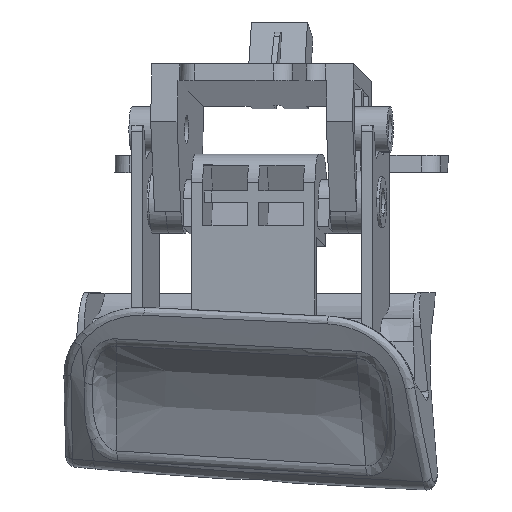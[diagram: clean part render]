
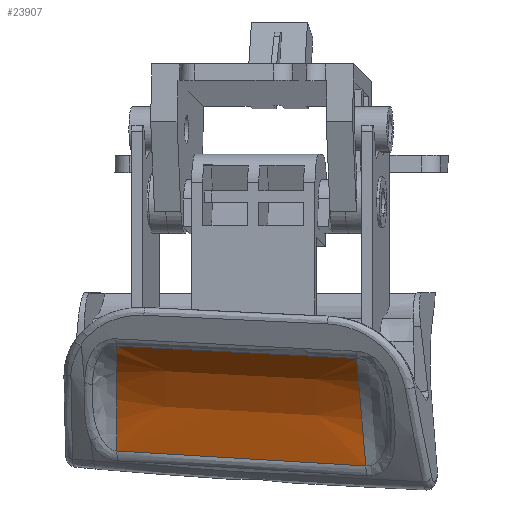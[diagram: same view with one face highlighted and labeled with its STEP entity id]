
A CAD part, top view. The second image highlights one B-rep face of the part: STEP entity #23907.
In plain terms, the highlighted free-form (B-spline) face has degree [5, 3] with [6, 4] control points.
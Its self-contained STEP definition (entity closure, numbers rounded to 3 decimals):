
#21962=CARTESIAN_POINT('Vertex',(-461.201,-959.776,487.528)) ;
#22913=CARTESIAN_POINT('Vertex',(-461.246,-978.261,474.855)) ;
#22917=CARTESIAN_POINT('Control Point',(-461.201,-959.776,487.528)) ;
#22918=CARTESIAN_POINT('Control Point',(-461.206,-960.133,486.744)) ;
#22919=CARTESIAN_POINT('Control Point',(-461.219,-961.226,484.726)) ;
#22920=CARTESIAN_POINT('Control Point',(-461.23,-964.171,481.053)) ;
#22921=CARTESIAN_POINT('Control Point',(-461.248,-968.084,478.397)) ;
#22922=CARTESIAN_POINT('Control Point',(-461.247,-972.382,476.515)) ;
#22923=CARTESIAN_POINT('Control Point',(-461.246,-975.981,475.405)) ;
#22924=CARTESIAN_POINT('Control Point',(-461.246,-978.261,474.855)) ;
#23813=CARTESIAN_POINT('Control Point',(-461.201,-959.776,487.53)) ;
#23814=CARTESIAN_POINT('Control Point',(-452.776,-960.214,488.86)) ;
#23815=CARTESIAN_POINT('Control Point',(-444.226,-960.657,490.188)) ;
#23816=CARTESIAN_POINT('Control Point',(-435.879,-961.088,491.466)) ;
#23817=CARTESIAN_POINT('Control Point',(-427.335,-961.53,492.761)) ;
#23818=CARTESIAN_POINT('Control Point',(-418.894,-961.966,494.028)) ;
#23819=CARTESIAN_POINT('Vertex',(-418.894,-961.966,494.028)) ;
#23839=CARTESIAN_POINT('Control Point',(-410.326,-961.487,497.974)) ;
#23840=CARTESIAN_POINT('Control Point',(-410.37,-963.404,490.076)) ;
#23841=CARTESIAN_POINT('Control Point',(-410.448,-971.722,484.04)) ;
#23842=CARTESIAN_POINT('Control Point',(-410.301,-983.826,481.804)) ;
#23843=CARTESIAN_POINT('Control Point',(-422.032,-960.881,496.231)) ;
#23844=CARTESIAN_POINT('Control Point',(-422.077,-962.793,488.351)) ;
#23845=CARTESIAN_POINT('Control Point',(-422.27,-971.067,482.437)) ;
#23846=CARTESIAN_POINT('Control Point',(-422.12,-983.115,480.213)) ;
#23847=CARTESIAN_POINT('Control Point',(-433.736,-960.275,494.465)) ;
#23848=CARTESIAN_POINT('Control Point',(-433.781,-962.183,486.604)) ;
#23849=CARTESIAN_POINT('Control Point',(-434.085,-970.413,480.775)) ;
#23850=CARTESIAN_POINT('Control Point',(-433.93,-982.404,478.562)) ;
#23851=CARTESIAN_POINT('Control Point',(-445.436,-959.669,492.676)) ;
#23852=CARTESIAN_POINT('Control Point',(-445.48,-961.573,484.834)) ;
#23853=CARTESIAN_POINT('Control Point',(-445.89,-969.759,479.038)) ;
#23854=CARTESIAN_POINT('Control Point',(-445.73,-981.694,476.836)) ;
#23855=CARTESIAN_POINT('Control Point',(-457.131,-959.064,490.854)) ;
#23856=CARTESIAN_POINT('Control Point',(-457.176,-960.963,483.031)) ;
#23857=CARTESIAN_POINT('Control Point',(-457.682,-969.106,477.187)) ;
#23858=CARTESIAN_POINT('Control Point',(-457.513,-980.985,474.996)) ;
#23859=CARTESIAN_POINT('Control Point',(-468.819,-958.459,488.986)) ;
#23860=CARTESIAN_POINT('Control Point',(-468.863,-960.353,481.181)) ;
#23861=CARTESIAN_POINT('Control Point',(-469.447,-968.455,475.154)) ;
#23862=CARTESIAN_POINT('Control Point',(-469.266,-980.277,472.976)) ;
#23864=CARTESIAN_POINT('Control Point',(-461.246,-978.26,474.856)) ;
#23865=CARTESIAN_POINT('Control Point',(-451.108,-978.873,476.514)) ;
#23866=CARTESIAN_POINT('Control Point',(-440.338,-979.522,478.152)) ;
#23867=CARTESIAN_POINT('Control Point',(-429.029,-980.202,479.774)) ;
#23868=CARTESIAN_POINT('Control Point',(-417.257,-980.909,481.39)) ;
#23869=CARTESIAN_POINT('Vertex',(-417.257,-980.908,481.39)) ;
#23873=CARTESIAN_POINT('Control Point',(-417.257,-980.909,481.39)) ;
#23874=CARTESIAN_POINT('Control Point',(-417.472,-978.383,481.964)) ;
#23875=CARTESIAN_POINT('Control Point',(-417.675,-975.999,482.685)) ;
#23876=CARTESIAN_POINT('Control Point',(-417.863,-973.796,483.538)) ;
#23877=CARTESIAN_POINT('Control Point',(-418.039,-971.75,484.535)) ;
#23878=CARTESIAN_POINT('Control Point',(-418.196,-969.924,485.642)) ;
#23879=CARTESIAN_POINT('Vertex',(-418.196,-969.924,485.642)) ;
#23883=CARTESIAN_POINT('Control Point',(-418.196,-969.924,485.642)) ;
#23884=CARTESIAN_POINT('Control Point',(-418.338,-968.257,486.652)) ;
#23885=CARTESIAN_POINT('Control Point',(-418.463,-966.783,487.754)) ;
#23886=CARTESIAN_POINT('Control Point',(-418.576,-965.468,488.983)) ;
#23887=CARTESIAN_POINT('Control Point',(-418.672,-964.38,490.269)) ;
#23888=CARTESIAN_POINT('Vertex',(-418.672,-964.38,490.269)) ;
#23892=CARTESIAN_POINT('Control Point',(-418.672,-964.38,490.269)) ;
#23893=CARTESIAN_POINT('Control Point',(-418.724,-963.782,490.975)) ;
#23894=CARTESIAN_POINT('Control Point',(-418.772,-963.244,491.7)) ;
#23895=CARTESIAN_POINT('Control Point',(-418.818,-962.752,492.466)) ;
#23896=CARTESIAN_POINT('Control Point',(-418.857,-962.332,493.232)) ;
#23897=CARTESIAN_POINT('Control Point',(-418.894,-961.966,494.028)) ;
#23900=ORIENTED_EDGE('',*,*,#23871,.T.) ;
#23901=ORIENTED_EDGE('',*,*,#23881,.F.) ;
#23902=ORIENTED_EDGE('',*,*,#23890,.T.) ;
#23903=ORIENTED_EDGE('',*,*,#23898,.T.) ;
#23904=ORIENTED_EDGE('',*,*,#23821,.T.) ;
#23905=ORIENTED_EDGE('',*,*,#22925,.T.) ;
#23907=ADVANCED_FACE('000',(#23906),#23838,.T.) ;
#23863=B_SPLINE_CURVE_WITH_KNOTS('',4,(#23864,#23865,#23866,#23867,#23868),.UNSPECIFIED.,.F.,.U.,(5,5),(0.,62.939),.UNSPECIFIED.) ;
#23872=B_SPLINE_CURVE_WITH_KNOTS('',5,(#23873,#23874,#23875,#23876,#23877,#23878),.UNSPECIFIED.,.F.,.U.,(6,6),(0.001,15.348),.UNSPECIFIED.) ;
#23882=B_SPLINE_CURVE_WITH_KNOTS('',4,(#23883,#23884,#23885,#23886,#23887),.UNSPECIFIED.,.F.,.U.,(5,5),(0.,11.209),.UNSPECIFIED.) ;
#23891=B_SPLINE_CURVE_WITH_KNOTS('',5,(#23892,#23893,#23894,#23895,#23896,#23897),.UNSPECIFIED.,.F.,.U.,(6,6),(0.,7.699),.UNSPECIFIED.) ;
#22925=EDGE_CURVE('',#21963,#22914,#22916,.T.) ;
#23821=EDGE_CURVE('',#23820,#21963,#23812,.F.) ;
#23871=EDGE_CURVE('',#22914,#23870,#23863,.T.) ;
#23881=EDGE_CURVE('',#23880,#23870,#23872,.F.) ;
#23890=EDGE_CURVE('',#23880,#23889,#23882,.T.) ;
#23898=EDGE_CURVE('',#23889,#23820,#23891,.T.) ;
#23899=EDGE_LOOP('',(#23900,#23901,#23902,#23903,#23904,#23905)) ;
#23906=FACE_OUTER_BOUND('',#23899,.T.) ;
#21963=VERTEX_POINT('',#21962) ;
#22914=VERTEX_POINT('',#22913) ;
#23820=VERTEX_POINT('',#23819) ;
#23870=VERTEX_POINT('',#23869) ;
#23880=VERTEX_POINT('',#23879) ;
#23889=VERTEX_POINT('',#23888) ;
#22916=(BOUNDED_CURVE()B_SPLINE_CURVE(5,(#22917,#22918,#22919,#22920,#22921,#22922,#22923,#22924),.UNSPECIFIED.,.F.,.U.)B_SPLINE_CURVE_WITH_KNOTS((6,1,1,6),(2.644,6.675,13.35,24.316),.UNSPECIFIED.)CURVE()GEOMETRIC_REPRESENTATION_ITEM()RATIONAL_B_SPLINE_CURVE((1.,1.,1.,1.,1.,1.,1.,1.))REPRESENTATION_ITEM('')) ;
#23812=(BOUNDED_CURVE()B_SPLINE_CURVE(5,(#23813,#23814,#23815,#23816,#23817,#23818),.UNSPECIFIED.,.F.,.U.)B_SPLINE_CURVE_WITH_KNOTS((6,6),(0.,42.834),.UNSPECIFIED.)CURVE()GEOMETRIC_REPRESENTATION_ITEM()RATIONAL_B_SPLINE_CURVE((1.,1.,1.,1.,1.,1.))REPRESENTATION_ITEM('')) ;
#23838=(BOUNDED_SURFACE()B_SPLINE_SURFACE(5,3,((#23839,#23840,#23841,#23842),(#23843,#23844,#23845,#23846),(#23847,#23848,#23849,#23850),(#23851,#23852,#23853,#23854),(#23855,#23856,#23857,#23858),(#23859,#23860,#23861,#23862)),.UNSPECIFIED.,.F.,.F.,.U.)B_SPLINE_SURFACE_WITH_KNOTS((6,6),(4,4),(0.,59.498),(0.,30.367),.UNSPECIFIED.)GEOMETRIC_REPRESENTATION_ITEM()RATIONAL_B_SPLINE_SURFACE(((1.,1.,1.,1.),(1.,1.,1.,1.),(1.,1.,1.,1.),(1.,1.,1.,1.),(1.,1.,1.,1.),(1.,1.,1.,1.)))REPRESENTATION_ITEM('Rational BSpline Surface')SURFACE()) ;
